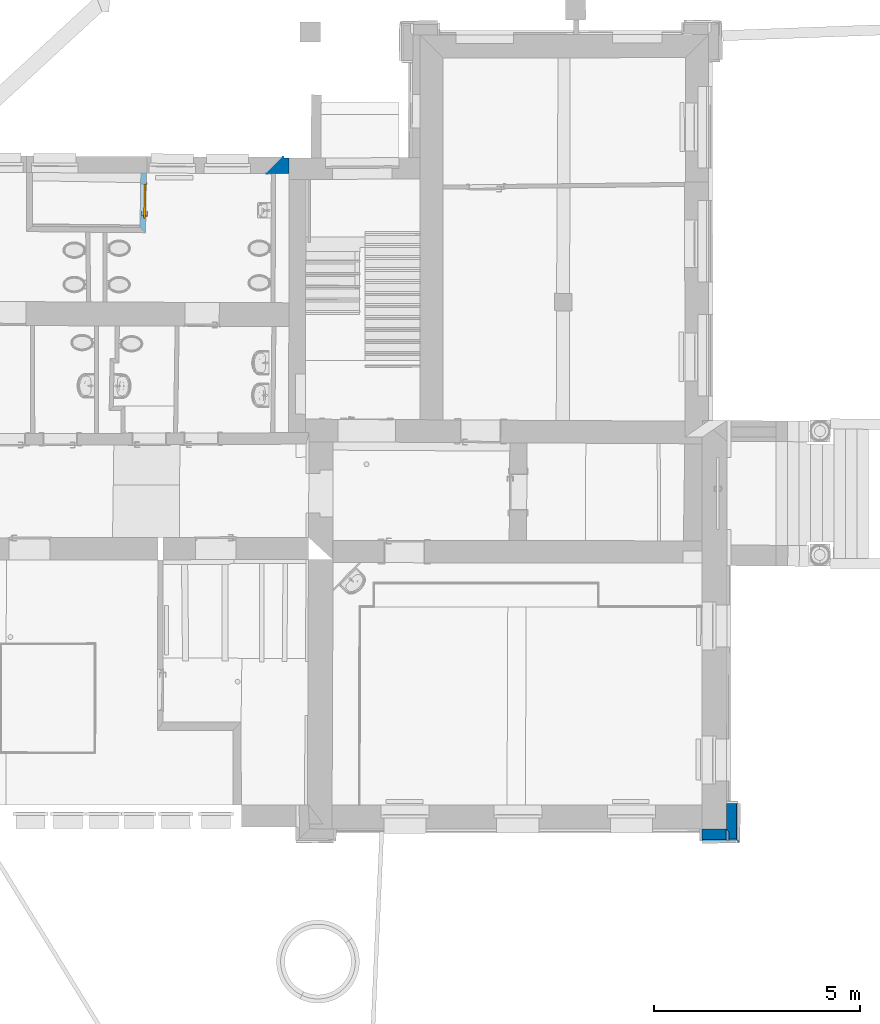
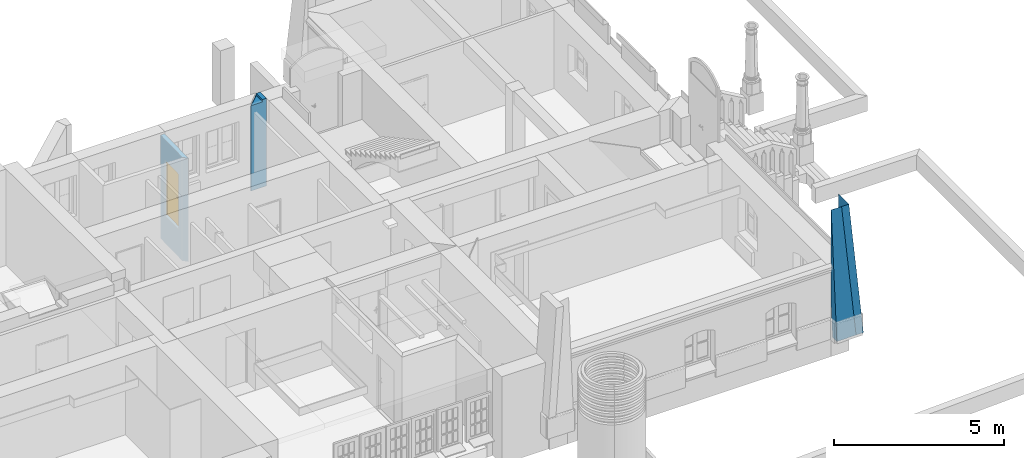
# One storey, part 103 of 196: 4 walls, 1 door, 1 opening, plus 1 element that does not belong to this part.
"""IFC2X3 building model written with IfcOpenShell, lengths in metres."""

import ifcopenshell
import ifcopenshell.guid

model = None  # the IFC model being written
_history = None  # IfcOwnerHistory: only IFC2X3 demands one
_inside = {}  # id of a spatial element -> (the spatial element, [elements in it])
_under = {}  # id of a project, library or spatial element -> (it, [spatial elements below it])
_declared = {}  # id of a project -> (the project, [libraries it declares])
_typed = {}  # id of a type object -> (the type object, [elements of that type])
_made_of = {}  # id of a material, layer set ... -> (it, [elements and type objects made of it])


def new_model(schema):
    """Start an empty IFC model of exactly this schema.

    Asked for "IFC4X3", IfcOpenShell would pick the latest addendum, in which some entities
    have other attributes; the version numbers below select the first issue.
    IFC2X3 requires an IfcOwnerHistory on every rooted entity: one is made here for all.
    """
    global model, _history
    if schema == "IFC4X3":
        model = ifcopenshell.file(schema_version=(4, 3, 0, 0))
    else:
        model = ifcopenshell.file(schema=schema)
    _inside.clear()
    _under.clear()
    _declared.clear()
    _typed.clear()
    _made_of.clear()
    _history = None
    if model.schema == "IFC2X3":
        org = make("IfcOrganization", Name="unknown")
        user = make(
            "IfcPersonAndOrganization",
            ThePerson=make("IfcPerson", FamilyName="unknown"),
            TheOrganization=org,
        )
        app = make(
            "IfcApplication",
            ApplicationDeveloper=org,
            Version="unknown",
            ApplicationFullName="unknown",
            ApplicationIdentifier="unknown",
        )
        _history = make(
            "IfcOwnerHistory",
            OwningUser=user,
            OwningApplication=app,
            ChangeAction="ADDED",
            CreationDate=0,
        )
    return model


def make(cls, **values):
    """One entity of the class cls with the attributes given. An attribute that is None is left unset."""
    return model.create_entity(
        cls, **{name: value for name, value in values.items() if value is not None}
    )


def entity(cls, *values):
    """Any entity or typed value of the class cls, its attributes in the order of the schema. None: left unset."""
    e = model.create_entity(cls)
    for i, value in enumerate(values):
        if value is not None:
            e[i] = value
    return e


def rooted(cls, **values):
    """An entity with a GlobalId (a new one), such as an element, a storey or a relation."""
    return make(cls, GlobalId=ifcopenshell.guid.new(), OwnerHistory=_history, **values)


def si_unit(unit_type, name, prefix=None):
    """IfcSIUnit, for example si_unit("LENGTHUNIT", "METRE", prefix="MILLI")."""
    return make("IfcSIUnit", UnitType=unit_type, Prefix=prefix, Name=name)


def converted_unit(unit_type, name, factor, base, dimensions=None, offset=None):
    """IfcConversionBasedUnit, such as the inch: factor (a typed value) times the base unit."""
    return make(
        "IfcConversionBasedUnit"
        if offset is None
        else "IfcConversionBasedUnitWithOffset",
        ConversionOffset=offset,
        Dimensions=None
        if dimensions is None
        else entity("IfcDimensionalExponents", *dimensions),
        UnitType=unit_type,
        Name=name,
        ConversionFactor=make(
            "IfcMeasureWithUnit", ValueComponent=factor, UnitComponent=base
        ),
    )


def derived_unit(unit_type, elements):
    """IfcDerivedUnit: a product of units, each with its exponent."""
    return make(
        "IfcDerivedUnit",
        Elements=[
            make("IfcDerivedUnitElement", Unit=unit, Exponent=power)
            for unit, power in elements
        ],
        UnitType=unit_type,
    )


def money_unit(currency):
    """IfcMonetaryUnit."""
    return make("IfcMonetaryUnit", Currency=currency)


def assignment(units):
    """IfcUnitAssignment: the units of a project."""
    return None if units is None else make("IfcUnitAssignment", Units=units)


def point(xyz):
    """IfcCartesianPoint."""
    return None if xyz is None else make("IfcCartesianPoint", Coordinates=xyz)


def direction(xyz):
    """IfcDirection."""
    return None if xyz is None else make("IfcDirection", DirectionRatios=xyz)


def frame(location, z_axis=None, x_axis=None):
    """IfcAxis2Placement3D, a coordinate frame: its origin and axes. An axis left out is left unset."""
    return make(
        "IfcAxis2Placement3D",
        Location=point(location),
        Axis=direction(z_axis),
        RefDirection=direction(x_axis),
    )


def frame_2d(location, x_axis=None):
    """IfcAxis2Placement2D, a coordinate frame in the plane: its origin and x axis."""
    return make(
        "IfcAxis2Placement2D", Location=point(location), RefDirection=direction(x_axis)
    )


def origin_with_axes():
    """The frame at (0, 0, 0) with the z axis (0, 0, 1) and the x axis (1, 0, 0) written out."""
    return frame((0.0, 0.0, 0.0), z_axis=(0.0, 0.0, 1.0), x_axis=(1.0, 0.0, 0.0))


def origin_2d_with_axis():
    """The frame at (0, 0) in the plane with the x axis (1, 0) written out."""
    return frame_2d((0.0, 0.0), x_axis=(1.0, 0.0))


def place(relative_to, where):
    """IfcLocalPlacement: puts the frame where relative to a parent placement (None: the world)."""
    return make(
        "IfcLocalPlacement", PlacementRelTo=relative_to, RelativePlacement=where
    )


def context(
    kind, dimensions, precision=None, world=None, true_north=None, identifier=None
):
    """IfcGeometricRepresentationContext, for example the 3D "Model" context."""
    return make(
        "IfcGeometricRepresentationContext",
        ContextIdentifier=identifier,
        ContextType=kind,
        CoordinateSpaceDimension=dimensions,
        Precision=precision,
        WorldCoordinateSystem=world,
        TrueNorth=true_north,
    )


def subcontext(parent, identifier, kind, view, scale=None):
    """IfcGeometricRepresentationSubContext, for example "Body" below "Model"."""
    return make(
        "IfcGeometricRepresentationSubContext",
        ContextIdentifier=identifier,
        ContextType=kind,
        ParentContext=parent,
        TargetScale=scale,
        TargetView=view,
    )


def project(units=None, contexts=None):
    """IfcProject with its units and contexts."""
    return rooted(
        "IfcProject",
        Name="project",
        RepresentationContexts=contexts,
        UnitsInContext=assignment(units),
    )


def spatial(cls, under=None, at=None, **own):
    """A site, building, storey or space (cls), placed at a placement, below another one or the project."""
    s = rooted(cls, ObjectPlacement=at, **own)
    if under is not None:
        _under.setdefault(under.id(), (under, []))[1].append(s)
    return s


def polyline(points):
    """IfcPolyline through the points."""
    return make("IfcPolyline", Points=[point(p) for p in points])


def profile(cls, at=None, kind="AREA", **sizes):
    """A parametric profile (cls). Its sizes go by their IFC names, for example OverallWidth=200.0."""
    return make(cls, ProfileType=kind, Position=at, **sizes)


def rectangle(**sizes):
    """IfcRectangleProfileDef."""
    return profile("IfcRectangleProfileDef", **sizes)


def outline(outer, holes=None, kind="AREA"):
    """IfcArbitraryClosedProfileDef: a profile drawn as a closed curve; with holes, ...WithVoids."""
    if holes is None:
        return make("IfcArbitraryClosedProfileDef", ProfileType=kind, OuterCurve=outer)
    return make(
        "IfcArbitraryProfileDefWithVoids",
        ProfileType=kind,
        OuterCurve=outer,
        InnerCurves=holes,
    )


def extrude(swept, where, along, depth):
    """IfcExtrudedAreaSolid: the profile swept, set in the frame where, extruded along a direction by depth."""
    return make(
        "IfcExtrudedAreaSolid",
        SweptArea=swept,
        Position=where,
        ExtrudedDirection=direction(along),
        Depth=depth,
    )


def boolean(op, a, b):
    """IfcBooleanResult of two solids."""
    return make("IfcBooleanResult", Operator=op, FirstOperand=a, SecondOperand=b)


def faces_of(points, faces, orient=None, outer=None):
    """IfcFace entities. A face is a list of loops; a loop is a list of indices into points, from 0.

    orient and outer hold one flag for each loop. By default every Orientation is true, the
    first loop of a face is its IfcFaceOuterBound and the others are IfcFaceBound.
    """
    made = []
    for i, loops in enumerate(faces):
        bounds = []
        for j, loop in enumerate(loops):
            is_outer = j == 0 if outer is None else outer[i][j]
            bounds.append(
                make(
                    "IfcFaceOuterBound" if is_outer else "IfcFaceBound",
                    Bound=make("IfcPolyLoop", Polygon=[points[k] for k in loop]),
                    Orientation=True if orient is None else orient[i][j],
                )
            )
        made.append(make("IfcFace", Bounds=bounds))
    return made


def faceted_brep(points, faces, orient=None, outer=None, voids=None):
    """IfcFacetedBrep: a solid bounded by flat faces; with voids (closed shells), ...WithVoids."""
    shared = [point(p) for p in points]
    hull = make("IfcClosedShell", CfsFaces=faces_of(shared, faces, orient, outer))
    if voids is None:
        return make("IfcFacetedBrep", Outer=hull)
    return make(
        "IfcFacetedBrepWithVoids",
        Outer=hull,
        Voids=[
            make(cls, CfsFaces=faces_of(shared, fs, o, b)) for cls, fs, o, b in voids
        ],
    )


def shape(context_of_items, identifier, shape_type, items):
    """IfcShapeRepresentation: the items that make up one representation, for example the "Body"."""
    return make(
        "IfcShapeRepresentation",
        ContextOfItems=context_of_items,
        RepresentationIdentifier=identifier,
        RepresentationType=shape_type,
        Items=items,
    )


def material(Name=None, Category=None):
    """IfcMaterial."""
    return make("IfcMaterial", Name=Name, Category=Category)


def layer(
    of_material, thickness, ventilated=None, Name=None, Category=None, Priority=None
):
    """IfcMaterialLayer: one layer of a wall or slab, of a material (None: an air gap)."""
    return make(
        "IfcMaterialLayer",
        Material=of_material,
        LayerThickness=thickness,
        IsVentilated=ventilated,
        Name=Name,
        Category=Category,
        Priority=Priority,
    )


def layer_set(layers, Name=None):
    """IfcMaterialLayerSet."""
    return make("IfcMaterialLayerSet", MaterialLayers=layers, LayerSetName=Name)


def layer_usage(for_layer_set, set_direction, sense, offset, extent=None):
    """IfcMaterialLayerSetUsage: how a layer set lies in its element."""
    return make(
        "IfcMaterialLayerSetUsage",
        ForLayerSet=for_layer_set,
        LayerSetDirection=set_direction,
        DirectionSense=sense,
        OffsetFromReferenceLine=offset,
        ReferenceExtent=extent,
    )


def made_of(thing, what):
    """Note that an element or type object is made of a material, layer set ...; save() writes the relation."""
    if what is not None:
        _made_of.setdefault(what.id(), (what, []))[1].append(thing)
    return thing


def type_object(cls, material=None, **own):
    """A type object (cls), such as IfcWallType, which elements share."""
    return made_of(rooted(cls, **own), material)


def element(
    cls,
    number,
    at=None,
    inside=None,
    cuts=None,
    type_object=None,
    material=None,
    context=None,
    identifier="Body",
    shape_type=None,
    held_by="IfcProductDefinitionShape",
    body=None,
    shapes=None,
    **own,
):
    """One element of the class cls, such as IfcWall. Its Tag is "e" and its number.

    at: its placement. inside: the storey or other place that contains it. cuts: it is an
    opening in that element (IfcRelVoidsElement). A single representation is given by context,
    identifier, shape_type and body (its items); several are given by shapes. held_by: the class
    of the entity that holds the representations. save() writes the other relations.
    """
    e = rooted(cls, Tag="e%d" % number, ObjectPlacement=at, **own)
    if body is not None:
        shapes = [shape(context, identifier, shape_type, body)]
    if shapes is not None:
        e.Representation = make(held_by, Representations=shapes)
    if inside is not None:
        _inside.setdefault(inside.id(), (inside, []))[1].append(e)
    if cuts is not None:
        rooted(
            "IfcRelVoidsElement", RelatingBuildingElement=cuts, RelatedOpeningElement=e
        )
    if type_object is not None:
        _typed.setdefault(type_object.id(), (type_object, []))[1].append(e)
    return made_of(e, material)


def fill(opening, filler):
    """IfcRelFillsElement: the door or window that sits in an opening."""
    return rooted(
        "IfcRelFillsElement",
        RelatingOpeningElement=opening,
        RelatedBuildingElement=filler,
    )


def aggregate(whole, parts):
    """IfcRelAggregates: a whole, such as a stair, and the parts it consists of."""
    return rooted("IfcRelAggregates", RelatingObject=whole, RelatedObjects=parts)


def save(model, path):
    """Write the relations noted so far, then the file.

    IfcRelAggregates (storeys below a building ...), IfcRelContainedInSpatialStructure (elements
    in a storey), IfcRelDefinesByType, IfcRelAssociatesMaterial and IfcRelDeclares: one each for
    every whole, place, type object, material and project.
    """
    for whole, parts in _under.values():
        aggregate(whole, parts)
    for where, things in _inside.values():
        rooted(
            "IfcRelContainedInSpatialStructure",
            RelatedElements=things,
            RelatingStructure=where,
        )
    for kind, things in _typed.values():
        rooted("IfcRelDefinesByType", RelatedObjects=things, RelatingType=kind)
    for what, things in _made_of.values():
        rooted("IfcRelAssociatesMaterial", RelatedObjects=things, RelatingMaterial=what)
    for by, libraries in _declared.values():
        rooted("IfcRelDeclares", RelatingContext=by, RelatedDefinitions=libraries)
    model.write(path)


model = new_model("IFC2X3")

# Units and contexts
model_context = context("Model", 3, precision=1e-05, world=origin_with_axes(), true_north=direction((0.0, 1.0)))
body_context = subcontext(model_context, "Body", "Model", "MODEL_VIEW")
ifc_project = project(units=[si_unit("LENGTHUNIT", "METRE"), si_unit("AREAUNIT", "SQUARE_METRE"), si_unit("VOLUMEUNIT", "CUBIC_METRE"), converted_unit("PLANEANGLEUNIT", "DEGREE", entity("IfcPlaneAngleMeasure", 0.0174532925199), si_unit("PLANEANGLEUNIT", "RADIAN"), dimensions=[0, 0, 0, 0, 0, 0, 0]), money_unit("EUR"), converted_unit("TIMEUNIT", "Year", entity("IfcTimeMeasure", 31556926.0), si_unit("TIMEUNIT", "SECOND"), dimensions=[0, 0, 1, 0, 0, 0, 0]), si_unit("MASSUNIT", "GRAM", prefix="KILO"), si_unit("THERMODYNAMICTEMPERATUREUNIT", "DEGREE_CELSIUS"), si_unit("LUMINOUSINTENSITYUNIT", "LUMEN"), si_unit("ENERGYUNIT", "JOULE", prefix="MEGA"), derived_unit("THERMALCONDUCTANCEUNIT", [(si_unit("POWERUNIT", "WATT"), 1), (si_unit("LENGTHUNIT", "METRE"), -1), (si_unit("THERMODYNAMICTEMPERATUREUNIT", "KELVIN"), -1)]), derived_unit("SPECIFICHEATCAPACITYUNIT", [(si_unit("ENERGYUNIT", "JOULE"), 1), (si_unit("MASSUNIT", "GRAM", prefix="KILO"), -1), (si_unit("THERMODYNAMICTEMPERATUREUNIT", "KELVIN"), -1)]), derived_unit("MASSDENSITYUNIT", [(si_unit("MASSUNIT", "GRAM", prefix="KILO"), 1), (si_unit("VOLUMEUNIT", "CUBIC_METRE"), -1)])], contexts=[model_context])

# Site, building, storey
site_placement = place(None, origin_with_axes())
site = spatial("IfcSite", under=ifc_project, at=site_placement, Name="Gelände", CompositionType="ELEMENT")
building_placement = place(site_placement, origin_with_axes())
building = spatial("IfcBuilding", under=site, at=building_placement, Name="Gebäude", CompositionType="ELEMENT")
storey_placement = place(building_placement, frame((0.0, 0.0, -3.0), z_axis=(0.0, 0.0, 1.0), x_axis=(1.0, 0.0, 0.0)))
storey = spatial("IfcBuildingStorey", under=building, at=storey_placement, Name="KELLERGESCHOSS", CompositionType="ELEMENT", Elevation=-3.0)

# Walls
ifc_material_1 = material(Name="05_ALLGEMEIN - TRAGENDE BAUTEILE")
wall_type_1 = type_object("IfcWallType", Name="05_ALLGEMEIN - TRAGENDE BAUTEILE 400", PredefinedType="ELEMENTEDWALL")
wall_1_placement = place(storey_placement, frame((21.3567077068, 26.1686068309, -0.36), z_axis=(0.0, 0.0, 1.0), x_axis=(0.0, 1.0, 0.0)))
element("IfcWall", 1, at=wall_1_placement, inside=storey, type_object=wall_type_1, material=ifc_material_1, Name="Wand-032", ObjectType="ELEMENTEDWALL", context=body_context, shape_type="CSG", body=[
    boolean("DIFFERENCE", extrude(outline(polyline([(-0.378179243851, 0.0), (0.0278423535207, 0.0), (0.0278423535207, 0.4), (-0.378179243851, 0.4), (-0.378179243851, 0.0)])), origin_with_axes(), (0.0, 0.0, 1.0), 3.065), faceted_brep([(-0.372160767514, 0.400000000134, 3.065), (0.0262708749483, 0.0, 3.065), (0.0278423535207, 0.0, 3.065), (0.0278423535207, 0.4, 3.065), (0.0262708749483, 0.0, 0.0), (-0.372160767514, 0.400000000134, 0.0), (0.0278423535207, 0.0, 0.0), (0.0278423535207, 0.4, 0.0), (-0.378179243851, 0.4, 0.0), (-0.378179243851, 0.4, 3.065), (-0.372185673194, 0.393660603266, 3.065), (-0.372185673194, 0.393660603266, 0.0), (0.0, 0.0, 0.0), (-0.378179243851, 0.0, 0.0), (-0.378179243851, 0.0, 3.065), (0.0, 0.0, 3.065)], [[[0, 1, 2, 3]], [[4, 1, 0, 5]], [[1, 4, 6, 2]], [[2, 6, 7, 3]], [[3, 7, 5, 8, 9, 0]], [[0, 10, 11, 5]], [[4, 5, 7, 6]], [[11, 12, 13, 8, 5]], [[9, 8, 13, 14]], [[10, 0, 9, 14, 15]], [[10, 15, 12, 11]], [[12, 15, 14, 13]]])),
])
wall_type_2 = type_object("IfcWallType", Name="05_ALLGEMEIN - TRAGENDE BAUTEILE 250", PredefinedType="ELEMENTEDWALL")
wall_2_placement = place(storey_placement, frame((32.4306677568, 10.5057770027, 0.381444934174), z_axis=(0.0, 0.0, 1.0), x_axis=(-0.00991415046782, -0.999950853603, 0.0)))
element("IfcWall", 2, at=wall_2_placement, inside=storey, type_object=wall_type_2, material=ifc_material_1, Name="Wand-041", ObjectType="ELEMENTEDWALL", context=body_context, shape_type="CSG", body=[
    boolean("DIFFERENCE", extrude(outline(polyline([(-0.250585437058, 0.0), (0.0, 0.0), (-0.310221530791, 4.53036021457), (-0.56080696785, 4.53036021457), (-0.250585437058, 0.0)])), frame((0.0, 0.0, 0.0), z_axis=(1.0, 0.0, 0.0), x_axis=(0.0, 1.0, 0.0)), (0.0, 0.0, 1.0), 0.944797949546), faceted_brep([(0.944777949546, -0.250585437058, 0.0), (0.939243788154, 0.0, 0.0), (0.944797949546, 0.0, 0.0), (0.944797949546, -0.250585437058, 0.0), (0.61710432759, -0.310221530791, 4.53036021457), (0.622638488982, -0.56080696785, 4.53036021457), (0.617330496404, -0.320462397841, 4.53036021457), (0.61723794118, -0.311373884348, 4.52887074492), (0.617129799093, -0.311374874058, 4.53036021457), (0.944797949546, -0.310221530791, 4.53036021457), (0.944797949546, -0.56080696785, 4.53036021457), (0.0, -0.317022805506, 4.53036021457), (0.0, -0.56080696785, 4.53036021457), (0.619778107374, -0.56080696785, 4.53036021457), (0.61723794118, -0.311373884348, 0.887731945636), (0.0, -0.317022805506, 0.970226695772)], [[[0, 1, 2, 3]], [[4, 1, 0, 5, 6, 7, 8]], [[1, 4, 9, 2]], [[10, 3, 2, 9]], [[5, 0, 3, 10]], [[6, 5, 10, 9, 4, 8, 11, 12, 13]], [[13, 14, 7, 6]], [[15, 11, 8, 7, 14]], [[11, 15, 12]], [[14, 13, 12, 15]]])),
])
wall_3_placement = place(storey_placement, frame((31.5125559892, 9.55552143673, 0.381444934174), z_axis=(0.0, 0.0, 1.0), x_axis=(0.999925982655, 0.0121667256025, 0.0)))
element("IfcWall", 3, at=wall_3_placement, inside=storey, type_object=wall_type_2, material=ifc_material_1, Name="Wand-042", ObjectType="ELEMENTEDWALL", context=body_context, shape_type="CSG", body=[
    boolean("DIFFERENCE", extrude(outline(polyline([(0.0, 0.0), (0.250658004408, 0.0), (0.579568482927, 4.53036021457), (0.328910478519, 4.53036021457), (0.0, 0.0)])), frame((0.0, 0.0, 0.0), z_axis=(1.0, 0.0, 0.0), x_axis=(0.0, 1.0, 0.0)), (0.0, 0.0, 1.0), 0.908867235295), faceted_brep([(0.658220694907, 0.0, 0.0), (0.663756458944, 0.250658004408, 0.0), (0.908867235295, 0.250658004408, 0.0), (0.908867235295, 0.0, 0.0), (0.591616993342, 0.328957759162, 1.07848827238), (0.355187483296, 0.328910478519, 4.53036021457), (0.355250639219, 0.331770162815, 4.53036021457), (0.00472114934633, 0.335940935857, 1.17467342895), (0.0, 0.335997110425, 1.17544716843), (0.0, 0.579568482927, 4.53036021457), (0.908867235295, 0.579568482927, 4.53036021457), (0.908867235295, 0.328910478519, 4.53036021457), (0.0, 0.335997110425, 4.53036021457), (0.0247197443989, 0.335702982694, 4.53036021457), (0.0247197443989, 0.335702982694, 2.40855506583), (0.00472114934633, 0.335940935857, 2.40855506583)], [[[0, 1, 2, 3]], [[4, 1, 0, 5, 6]], [[7, 8, 9, 10, 2, 1, 4]], [[11, 3, 2, 10]], [[5, 0, 3, 11]], [[6, 5, 11, 10, 9, 12, 13]], [[7, 4, 6, 13, 14, 15]], [[13, 12, 8, 7, 15, 14]], [[8, 12, 9]]])),
])
wall_type_3 = type_object("IfcWallType", Name="05_ALLGEMEIN - TRAGENDE BAUTEILE 376", PredefinedType="ELEMENTEDWALL")
wall_4_placement = place(storey_placement, frame((21.4898818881, 26.1693305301, -0.36), z_axis=(0.0, 0.0, 1.0), x_axis=(-0.999985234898, -0.00543414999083, 0.0)))
element("IfcWall", 4, at=wall_4_placement, inside=storey, type_object=wall_type_3, material=ifc_material_1, Name="Wand-031", ObjectType="ELEMENTEDWALL", context=body_context, shape_type="CSG", body=[
    boolean("DIFFERENCE", extrude(outline(polyline([(0.0, 0.0), (0.53522532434, 0.0), (0.53522532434, 0.376), (0.0, 0.376), (0.0, 0.0)])), origin_with_axes(), (0.0, 0.0, 1.0), 3.15), faceted_brep([(0.0, 0.374992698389, 0.0), (0.0, 0.374992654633, 3.15), (0.0, 0.376, 3.15), (0.0, 0.376, 0.0), (0.133176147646, 0.373745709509, 3.15), (0.528853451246, 0.37004096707, 0.0), (0.528853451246, 0.37004096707, 3.065), (0.133176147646, 0.373745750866, 3.065), (0.133176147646, 0.0, 3.15), (0.53522532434, 0.0, 3.15), (0.53522532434, 0.376, 3.15), (0.53522532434, 0.376, 0.0), (0.53522532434, 0.0, 0.0), (0.133176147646, 0.0, 0.0), (0.133176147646, 0.0, 3.065)], [[[0, 1, 2, 3]], [[4, 1, 0, 5, 6, 7]], [[4, 8, 9, 10, 2, 1]], [[10, 11, 3, 2]], [[5, 0, 3, 11, 12, 13]], [[13, 14, 6, 5]], [[6, 14, 7]], [[8, 4, 7, 14]], [[14, 13, 12, 9, 8]], [[9, 12, 11, 10]]])),
])

# Wall, opening, door
ifc_material_2 = material(Name="59_MW Kalksandstein-600")
ifc_layer = layer(ifc_material_2, 0.138294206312, ventilated="UNKNOWN")
ifc_layer_set = layer_set([ifc_layer], Name="59_MW Kalksandstein-600 0.138294")
ifc_layer_usage = layer_usage(ifc_layer_set, "AXIS2", "NEGATIVE", 0.138294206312)
wall_type_4 = type_object("IfcWallType", Name="59_MW Kalksandstein-600 138", PredefinedType="ELEMENTEDWALL")
wall_5_placement = place(storey_placement, frame((18.0123133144, 24.3596223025, -1.0), z_axis=(0.0, 0.0, 1.0), x_axis=(0.0162533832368, 0.999867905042, 0.0)))
wall_5 = element("IfcWallStandardCase", 5, at=wall_5_placement, inside=storey, type_object=wall_type_4, material=ifc_layer_usage, Name="Wand-040", ObjectType="ELEMENTEDWALL", context=body_context, shape_type="SweptSolid", body=[
    extrude(outline(polyline([(0.0, 0.0), (1.44849027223, 0.0), (1.44678565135, 0.138294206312), (0.133548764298, 0.138294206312), (0.0, 0.0)])), origin_with_axes(), (0.0, 0.0, 1.0), 3.72),
])
opening_placement = place(wall_5_placement, frame((0.764128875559, 0.0, 0.9899005), z_axis=(0.0, 0.0, 1.0), x_axis=(1.0, 0.0, 0.0)))
opening = element("IfcOpeningElement", 6, at=opening_placement, cuts=wall_5, Name="Tür-022", context=body_context, shape_type="SweptSolid", body=[
    extrude(rectangle(XDim=0.824257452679, YDim=1.992285, at=origin_2d_with_axis()), frame((0.0, -0.138294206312, 0.9961425), z_axis=(0.0, -1.0, 0.0), x_axis=(1.0, 0.0, 0.0)), (0.0, 0.0, -1.0), 0.414882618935),
])
door_style = type_object("IfcDoorStyle", Name="Blockrahmentür 1-Fl 25", ConstructionType="NOTDEFINED", OperationType="SINGLE_SWING_LEFT", ParameterTakesPrecedence=False, Sizeable=False)
door_placement = place(opening_placement, frame((0.40162872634, 0.0, 0.0), z_axis=(0.0, 0.0, 1.0), x_axis=(-1.0, 0.0, 0.0)))
door = element("IfcDoor", 7, at=door_placement, inside=storey, type_object=door_style, Name="Tür-022", ObjectType="NOTDEFINED", OverallHeight=1.99228, OverallWidth=0.824257, context=body_context, shape_type="Brep", body=[
    faceted_brep([(-0.0105, -0.084, 0.0), (-0.0105, -0.084, 1.992285), (-0.0105, -0.054, 1.992285), (-0.0105, -0.054, 0.0), (0.0, -0.084, 0.0), (0.0, -0.084, 1.981785), (0.28652872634, -0.084, 1.981785), (0.40152872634, -0.084, 1.981785), (0.803257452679, -0.084, 1.981785), (0.803257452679, -0.084, 0.0), (0.813757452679, -0.084, 0.0), (0.813757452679, -0.084, 1.992285), (0.813757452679, -0.054, 1.992285), (0.813757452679, -0.054, 0.0), (0.803257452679, -0.054, 0.0), (0.803257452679, -0.054, 1.981785), (0.40152872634, -0.054, 1.981785), (0.28652872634, -0.054, 1.981785), (0.0, -0.054, 1.981785), (0.0, -0.054, 0.0)], [[[0, 1, 2, 3]], [[0, 4, 5, 6, 7, 8, 9, 10, 11, 1]], [[1, 11, 12, 2]], [[3, 2, 12, 13, 14, 15, 16, 17, 18, 19]], [[4, 0, 3, 19]], [[5, 4, 19, 18]], [[6, 5, 18, 17]], [[7, 6, 17, 16]], [[8, 7, 16, 15]], [[9, 8, 15, 14]], [[10, 9, 14, 13]], [[11, 10, 13, 12]]]),
    faceted_brep([(-0.0105, -0.054, 0.0), (-0.015, -0.054, 0.0), (-0.015, 0.011, 0.0), (-0.0105, 0.011, 0.0), (-0.0105, -0.054, 1.992285), (0.813757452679, -0.054, 1.992285), (0.813757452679, -0.054, 0.0), (0.818257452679, -0.054, 0.0), (0.818257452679, -0.054, 1.996785), (0.38652872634, -0.054, 1.996785), (0.30152872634, -0.054, 1.996785), (-0.015, -0.054, 1.996785), (-0.015, 0.011, 1.996785), (0.30152872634, 0.011, 1.996785), (0.38652872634, 0.011, 1.996785), (0.818257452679, 0.011, 1.996785), (0.818257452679, 0.011, 0.0), (0.813757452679, 0.011, 0.0), (0.813757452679, 0.011, 1.992285), (-0.0105, 0.011, 1.992285)], [[[0, 1, 2, 3]], [[0, 4, 5, 6, 7, 8, 9, 10, 11, 1]], [[1, 11, 12, 2]], [[3, 2, 12, 13, 14, 15, 16, 17, 18, 19]], [[4, 0, 3, 19]], [[5, 4, 19, 18]], [[6, 5, 18, 17]], [[7, 6, 17, 16]], [[8, 7, 16, 15]], [[9, 8, 15, 14]], [[10, 9, 14, 13]], [[11, 10, 13, 12]]]),
    faceted_brep([(-0.0505, 0.0, 0.0), (-0.0505, 0.0, 2.032285), (-0.0505, 0.011, 2.032285), (-0.0505, 0.011, 0.0), (-0.0105, 0.0, 0.0), (-0.0105, 0.0, 1.992285), (0.813757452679, 0.0, 1.992285), (0.813757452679, 0.0, 0.0), (0.853757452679, 0.0, 0.0), (0.853757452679, 0.0, 2.032285), (0.853757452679, 0.011, 2.032285), (0.853757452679, 0.011, 0.0), (0.813757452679, 0.011, 0.0), (0.813757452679, 0.011, 1.992285), (-0.0105, 0.011, 1.992285), (-0.0105, 0.011, 0.0)], [[[0, 1, 2, 3]], [[0, 4, 5, 6, 7, 8, 9, 1]], [[1, 9, 10, 2]], [[3, 2, 10, 11, 12, 13, 14, 15]], [[4, 0, 3, 15]], [[5, 4, 15, 14]], [[6, 5, 14, 13]], [[7, 6, 13, 12]], [[8, 7, 12, 11]], [[9, 8, 11, 10]]]),
    faceted_brep([(-0.015, -0.014, 0.0), (-0.015, -0.014, 1.996785), (0.818257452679, -0.014, 1.996785), (0.818257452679, -0.014, 0.0), (-0.015, -0.054, 0.0), (-0.015, -0.054, 1.996785), (0.818257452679, -0.054, 1.996785), (0.818257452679, -0.054, 0.0)], [[[0, 1, 2, 3]], [[0, 4, 5, 1]], [[1, 5, 6, 2]], [[2, 6, 7, 3]], [[3, 7, 4, 0]], [[7, 6, 5, 4]]]),
    faceted_brep([(0.762959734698, -0.094, 1.05647213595), (0.762959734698, -0.074, 1.05647213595), (0.758257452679, -0.074, 1.058), (0.758257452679, -0.094, 1.058), (0.76586590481, -0.094, 1.05247213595), (0.76586590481, -0.074, 1.05247213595), (0.764135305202, -0.072, 1.05809016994), (0.758257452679, -0.072, 1.06), (0.753555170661, -0.074, 1.05647213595), (0.753555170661, -0.094, 1.05647213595), (0.750649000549, -0.094, 1.05247213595), (0.750649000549, -0.094, 1.04752786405), (0.753555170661, -0.094, 1.04352786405), (0.758257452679, -0.094, 1.042), (0.762959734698, -0.094, 1.04352786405), (0.76586590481, -0.094, 1.04752786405), (0.76586590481, -0.074, 1.04752786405), (0.767768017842, -0.072, 1.05309016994), (0.764135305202, -0.064, 1.05809016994), (0.758257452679, -0.064, 1.06), (0.752379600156, -0.072, 1.05809016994), (0.750649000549, -0.074, 1.05247213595), (0.750649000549, -0.074, 1.04752786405), (0.753555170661, -0.074, 1.04352786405), (0.758257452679, -0.074, 1.042), (0.762959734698, -0.074, 1.04352786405), (0.767768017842, -0.072, 1.04690983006), (0.767768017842, -0.064, 1.05309016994), (0.767768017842, -0.064, 1.04690983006), (0.764135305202, -0.064, 1.04190983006), (0.758257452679, -0.064, 1.04), (0.752379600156, -0.064, 1.04190983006), (0.748746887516, -0.064, 1.04690983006), (0.748746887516, -0.064, 1.05309016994), (0.752379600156, -0.064, 1.05809016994), (0.748746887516, -0.072, 1.05309016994), (0.748746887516, -0.072, 1.04690983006), (0.752379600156, -0.072, 1.04190983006), (0.758257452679, -0.072, 1.04), (0.764135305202, -0.072, 1.04190983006)], [[[0, 1, 2, 3]], [[4, 5, 1, 0]], [[1, 6, 7, 2]], [[3, 2, 8, 9]], [[3, 9, 10, 11, 12, 13, 14, 15, 4, 0]], [[15, 16, 5, 4]], [[5, 17, 6, 1]], [[6, 18, 19, 7]], [[2, 7, 20, 8]], [[9, 8, 21, 10]], [[10, 21, 22, 11]], [[11, 22, 23, 12]], [[12, 23, 24, 13]], [[13, 24, 25, 14]], [[14, 25, 16, 15]], [[16, 26, 17, 5]], [[17, 27, 18, 6]], [[19, 18, 27, 28, 29, 30, 31, 32, 33, 34]], [[7, 19, 34, 20]], [[8, 20, 35, 21]], [[21, 35, 36, 22]], [[22, 36, 37, 23]], [[23, 37, 38, 24]], [[24, 38, 39, 25]], [[25, 39, 26, 16]], [[26, 28, 27, 17]], [[39, 29, 28, 26]], [[38, 30, 29, 39]], [[37, 31, 30, 38]], [[36, 32, 31, 37]], [[35, 33, 32, 36]], [[20, 34, 33, 35]]]),
    faceted_brep([(0.746069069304, -0.064, 1.11759695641), (0.741457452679, -0.064, 1.11), (0.735757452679, -0.064, 1.11), (0.735757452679, -0.064, 0.89), (0.741457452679, -0.064, 0.89), (0.746069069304, -0.064, 0.882403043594), (0.753813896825, -0.064, 0.878044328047), (0.762701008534, -0.064, 0.878044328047), (0.770445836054, -0.064, 0.882403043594), (0.775057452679, -0.064, 0.89), (0.780757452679, -0.064, 0.89), (0.780757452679, -0.064, 1.11), (0.775057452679, -0.064, 1.11), (0.770445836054, -0.064, 1.11759695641), (0.762701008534, -0.064, 1.12195567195), (0.753813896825, -0.064, 1.12195567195), (0.758257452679, -0.064, 0.967425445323), (0.763632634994, -0.064, 0.965143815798), (0.765725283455, -0.064, 0.959692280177), (0.763257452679, -0.064, 0.9544), (0.763257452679, -0.064, 0.9375), (0.761792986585, -0.064, 0.933964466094), (0.758257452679, -0.064, 0.9325), (0.754721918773, -0.064, 0.933964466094), (0.753257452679, -0.064, 0.9375), (0.753257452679, -0.064, 0.9544), (0.750789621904, -0.064, 0.959692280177), (0.752882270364, -0.064, 0.965143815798), (0.746069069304, -0.054, 1.11759695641), (0.741457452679, -0.054, 1.11), (0.735757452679, -0.054, 1.11), (0.735757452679, -0.054, 0.89), (0.741457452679, -0.054, 0.89), (0.746069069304, -0.054, 0.882403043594), (0.753813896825, -0.054, 0.878044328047), (0.762701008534, -0.054, 0.878044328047), (0.770445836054, -0.054, 0.882403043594), (0.775057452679, -0.054, 0.89), (0.780757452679, -0.054, 0.89), (0.780757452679, -0.054, 1.11), (0.775057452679, -0.054, 1.11), (0.770445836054, -0.054, 1.11759695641), (0.762701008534, -0.054, 1.12195567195), (0.753813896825, -0.054, 1.12195567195), (0.758257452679, -0.054, 0.967425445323), (0.763632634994, -0.054, 0.965143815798), (0.765725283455, -0.054, 0.959692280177), (0.763257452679, -0.054, 0.9544), (0.763257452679, -0.054, 0.9375), (0.761792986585, -0.054, 0.933964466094), (0.758257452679, -0.054, 0.9325), (0.754721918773, -0.054, 0.933964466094), (0.753257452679, -0.054, 0.9375), (0.753257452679, -0.054, 0.9544), (0.750789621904, -0.054, 0.959692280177), (0.752882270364, -0.054, 0.965143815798)], [[[0, 1, 2, 3, 4, 5, 6, 7, 8, 9, 10, 11, 12, 13, 14, 15], [16, 17, 18, 19, 20, 21, 22, 23, 24, 25, 26, 27]], [[0, 28, 29, 1]], [[1, 29, 30, 2]], [[2, 30, 31, 3]], [[3, 31, 32, 4]], [[4, 32, 33, 5]], [[5, 33, 34, 6]], [[6, 34, 35, 7]], [[7, 35, 36, 8]], [[8, 36, 37, 9]], [[9, 37, 38, 10]], [[10, 38, 39, 11]], [[11, 39, 40, 12]], [[12, 40, 41, 13]], [[13, 41, 42, 14]], [[14, 42, 43, 15]], [[15, 43, 28, 0]], [[16, 44, 45, 17]], [[17, 45, 46, 18]], [[18, 46, 47, 19]], [[47, 48, 20, 19]], [[21, 20, 48, 49]], [[22, 21, 49, 50]], [[23, 22, 50, 51]], [[24, 23, 51, 52]], [[25, 24, 52, 53]], [[25, 53, 54, 26]], [[26, 54, 55, 27]], [[27, 55, 44, 16]], [[32, 31, 30, 29, 28, 43, 42, 41, 40, 39, 38, 37, 36, 35, 34, 33], [46, 45, 44, 55, 54, 53, 52, 51, 50, 49, 48, 47]]]),
    faceted_brep([(0.644004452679, -0.094, 1.057158), (0.644002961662, -0.094, 1.05719388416), (0.644002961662, -0.109, 1.05719388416), (0.644004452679, -0.109, 1.057158), (0.671032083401, -0.094, 1.06432652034), (0.698860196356, -0.094, 1.06706086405), (0.726766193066, -0.094, 1.06529002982), (0.754025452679, -0.094, 1.05906), (0.760428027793, -0.094, 1.05976125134), (0.765930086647, -0.094, 1.05641280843), (0.768248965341, -0.094, 1.05040385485), (0.766422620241, -0.094, 1.04422735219), (0.761208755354, -0.094, 1.04044577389), (0.754770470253, -0.094, 1.04062800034), (0.749778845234, -0.094, 1.04469843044), (0.749799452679, -0.094, 1.044666), (0.724510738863, -0.094, 1.05019878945), (0.698668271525, -0.094, 1.05171460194), (0.672906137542, -0.094, 1.04917624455), (0.647856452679, -0.094, 1.042646), (0.642313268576, -0.094, 1.04356849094), (0.638951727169, -0.094, 1.04807159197), (0.639643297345, -0.094, 1.05364829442), (0.639643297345, -0.109, 1.05364829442), (0.638951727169, -0.109, 1.04807159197), (0.642313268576, -0.109, 1.04356849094), (0.647856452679, -0.109, 1.042646), (0.672906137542, -0.109, 1.04917624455), (0.698668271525, -0.109, 1.05171460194), (0.724510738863, -0.109, 1.05019878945), (0.749799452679, -0.109, 1.044666), (0.749778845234, -0.109, 1.04469843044), (0.754770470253, -0.109, 1.04062800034), (0.761208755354, -0.109, 1.04044577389), (0.766422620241, -0.109, 1.04422735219), (0.768248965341, -0.109, 1.05040385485), (0.765930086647, -0.109, 1.05641280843), (0.760428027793, -0.109, 1.05976125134), (0.754025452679, -0.109, 1.05906), (0.726766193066, -0.109, 1.06529002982), (0.698860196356, -0.109, 1.06706086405), (0.671032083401, -0.109, 1.06432652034)], [[[0, 1, 2, 3]], [[0, 4, 5, 6, 7, 8, 9, 10, 11, 12, 13, 14, 15, 16, 17, 18, 19, 20, 21, 22, 1]], [[1, 22, 23, 2]], [[3, 2, 23, 24, 25, 26, 27, 28, 29, 30, 31, 32, 33, 34, 35, 36, 37, 38, 39, 40, 41]], [[4, 0, 3, 41]], [[5, 4, 41, 40]], [[6, 5, 40, 39]], [[7, 6, 39, 38]], [[8, 7, 38, 37]], [[9, 8, 37, 36]], [[10, 9, 36, 35]], [[11, 10, 35, 34]], [[12, 11, 34, 33]], [[13, 12, 33, 32]], [[14, 13, 32, 31]], [[15, 14, 31, 30]], [[16, 15, 30, 29]], [[17, 16, 29, 28]], [[18, 17, 28, 27]], [[19, 18, 27, 26]], [[20, 19, 26, 25]], [[21, 20, 25, 24]], [[22, 21, 24, 23]]]),
    faceted_brep([(0.762959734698, 0.026, 1.05647213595), (0.758257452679, 0.026, 1.058), (0.758257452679, 0.006, 1.058), (0.762959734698, 0.006, 1.05647213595), (0.76586590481, 0.026, 1.05247213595), (0.76586590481, 0.026, 1.04752786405), (0.762959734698, 0.026, 1.04352786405), (0.758257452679, 0.026, 1.042), (0.753555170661, 0.026, 1.04352786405), (0.750649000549, 0.026, 1.04752786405), (0.750649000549, 0.026, 1.05247213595), (0.753555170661, 0.026, 1.05647213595), (0.753555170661, 0.006, 1.05647213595), (0.758257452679, 0.004, 1.06), (0.764135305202, 0.004, 1.05809016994), (0.76586590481, 0.006, 1.05247213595), (0.76586590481, 0.006, 1.04752786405), (0.762959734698, 0.006, 1.04352786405), (0.758257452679, 0.006, 1.042), (0.753555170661, 0.006, 1.04352786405), (0.750649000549, 0.006, 1.04752786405), (0.750649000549, 0.006, 1.05247213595), (0.752379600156, 0.004, 1.05809016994), (0.758257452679, -0.004, 1.06), (0.764135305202, -0.004, 1.05809016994), (0.767768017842, 0.00399999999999, 1.05309016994), (0.767768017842, 0.00399999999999, 1.04690983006), (0.764135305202, 0.004, 1.04190983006), (0.758257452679, 0.004, 1.04), (0.752379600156, 0.004, 1.04190983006), (0.748746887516, 0.004, 1.04690983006), (0.748746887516, 0.004, 1.05309016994), (0.752379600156, -0.004, 1.05809016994), (0.748746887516, -0.004, 1.05309016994), (0.748746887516, -0.004, 1.04690983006), (0.752379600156, -0.004, 1.04190983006), (0.758257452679, -0.004, 1.04), (0.764135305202, -0.004, 1.04190983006), (0.767768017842, -0.004, 1.04690983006), (0.767768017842, -0.004, 1.05309016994)], [[[0, 1, 2, 3]], [[1, 0, 4, 5, 6, 7, 8, 9, 10, 11]], [[1, 11, 12, 2]], [[3, 2, 13, 14]], [[4, 0, 3, 15]], [[5, 4, 15, 16]], [[6, 5, 16, 17]], [[7, 6, 17, 18]], [[8, 7, 18, 19]], [[9, 8, 19, 20]], [[10, 9, 20, 21]], [[11, 10, 21, 12]], [[2, 12, 22, 13]], [[14, 13, 23, 24]], [[15, 3, 14, 25]], [[16, 15, 25, 26]], [[17, 16, 26, 27]], [[18, 17, 27, 28]], [[19, 18, 28, 29]], [[20, 19, 29, 30]], [[21, 20, 30, 31]], [[12, 21, 31, 22]], [[13, 22, 32, 23]], [[23, 32, 33, 34, 35, 36, 37, 38, 39, 24]], [[25, 14, 24, 39]], [[26, 25, 39, 38]], [[27, 26, 38, 37]], [[28, 27, 37, 36]], [[29, 28, 36, 35]], [[30, 29, 35, 34]], [[31, 30, 34, 33]], [[22, 31, 33, 32]]]),
    faceted_brep([(0.746069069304, -0.014, 1.11759695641), (0.741457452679, -0.014, 1.11), (0.735757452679, -0.014, 1.11), (0.735757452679, -0.014, 0.89), (0.741457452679, -0.014, 0.89), (0.746069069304, -0.014, 0.882403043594), (0.753813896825, -0.014, 0.878044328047), (0.762701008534, -0.014, 0.878044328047), (0.770445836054, -0.014, 0.882403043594), (0.775057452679, -0.014, 0.89), (0.780757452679, -0.014, 0.89), (0.780757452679, -0.014, 1.11), (0.775057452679, -0.014, 1.11), (0.770445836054, -0.014, 1.11759695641), (0.762701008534, -0.014, 1.12195567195), (0.753813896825, -0.014, 1.12195567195), (0.758257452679, -0.014, 0.967425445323), (0.763632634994, -0.014, 0.965143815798), (0.765725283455, -0.014, 0.959692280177), (0.763257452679, -0.014, 0.9544), (0.763257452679, -0.014, 0.9375), (0.761792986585, -0.014, 0.933964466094), (0.758257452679, -0.014, 0.9325), (0.754721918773, -0.014, 0.933964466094), (0.753257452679, -0.014, 0.9375), (0.753257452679, -0.014, 0.9544), (0.750789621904, -0.014, 0.959692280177), (0.752882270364, -0.014, 0.965143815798), (0.746069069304, -0.004, 1.11759695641), (0.741457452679, -0.004, 1.11), (0.735757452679, -0.004, 1.11), (0.735757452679, -0.004, 0.89), (0.741457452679, -0.004, 0.89), (0.746069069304, -0.004, 0.882403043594), (0.753813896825, -0.004, 0.878044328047), (0.762701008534, -0.004, 0.878044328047), (0.770445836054, -0.004, 0.882403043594), (0.775057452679, -0.004, 0.89), (0.780757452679, -0.004, 0.89), (0.780757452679, -0.004, 1.11), (0.775057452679, -0.004, 1.11), (0.770445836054, -0.004, 1.11759695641), (0.762701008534, -0.004, 1.12195567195), (0.753813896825, -0.004, 1.12195567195), (0.758257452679, -0.004, 0.967425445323), (0.763632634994, -0.004, 0.965143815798), (0.765725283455, -0.004, 0.959692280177), (0.763257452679, -0.004, 0.9544), (0.763257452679, -0.004, 0.9375), (0.761792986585, -0.004, 0.933964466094), (0.758257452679, -0.004, 0.9325), (0.754721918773, -0.004, 0.933964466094), (0.753257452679, -0.004, 0.9375), (0.753257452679, -0.004, 0.9544), (0.750789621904, -0.004, 0.959692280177), (0.752882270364, -0.004, 0.965143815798)], [[[0, 1, 2, 3, 4, 5, 6, 7, 8, 9, 10, 11, 12, 13, 14, 15], [16, 17, 18, 19, 20, 21, 22, 23, 24, 25, 26, 27]], [[28, 29, 1, 0]], [[29, 30, 2, 1]], [[30, 31, 3, 2]], [[31, 32, 4, 3]], [[32, 33, 5, 4]], [[33, 34, 6, 5]], [[34, 35, 7, 6]], [[35, 36, 8, 7]], [[36, 37, 9, 8]], [[37, 38, 10, 9]], [[38, 39, 11, 10]], [[39, 40, 12, 11]], [[40, 41, 13, 12]], [[41, 42, 14, 13]], [[42, 43, 15, 14]], [[43, 28, 0, 15]], [[16, 44, 45, 17]], [[17, 45, 46, 18]], [[18, 46, 47, 19]], [[47, 48, 20, 19]], [[21, 20, 48, 49]], [[22, 21, 49, 50]], [[23, 22, 50, 51]], [[24, 23, 51, 52]], [[25, 24, 52, 53]], [[25, 53, 54, 26]], [[26, 54, 55, 27]], [[27, 55, 44, 16]], [[32, 31, 30, 29, 28, 43, 42, 41, 40, 39, 38, 37, 36, 35, 34, 33], [46, 45, 44, 55, 54, 53, 52, 51, 50, 49, 48, 47]]]),
    faceted_brep([(0.644004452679, 0.026, 1.057158), (0.644004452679, 0.041, 1.057158), (0.644002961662, 0.041, 1.05719388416), (0.644002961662, 0.026, 1.05719388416), (0.671032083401, 0.026, 1.06432652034), (0.671032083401, 0.041, 1.06432652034), (0.698860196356, 0.041, 1.06706086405), (0.726766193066, 0.041, 1.06529002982), (0.754025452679, 0.041, 1.05906), (0.760428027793, 0.041, 1.05976125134), (0.765930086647, 0.041, 1.05641280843), (0.768248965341, 0.041, 1.05040385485), (0.766422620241, 0.041, 1.04422735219), (0.761208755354, 0.041, 1.04044577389), (0.754770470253, 0.041, 1.04062800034), (0.749778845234, 0.041, 1.04469843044), (0.749799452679, 0.041, 1.044666), (0.724510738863, 0.041, 1.05019878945), (0.698668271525, 0.041, 1.05171460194), (0.672906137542, 0.041, 1.04917624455), (0.647856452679, 0.041, 1.042646), (0.642313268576, 0.041, 1.04356849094), (0.638951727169, 0.041, 1.04807159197), (0.639643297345, 0.041, 1.05364829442), (0.639643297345, 0.026, 1.05364829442), (0.638951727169, 0.026, 1.04807159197), (0.642313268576, 0.026, 1.04356849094), (0.647856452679, 0.026, 1.042646), (0.672906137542, 0.026, 1.04917624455), (0.698668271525, 0.026, 1.05171460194), (0.724510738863, 0.026, 1.05019878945), (0.749799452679, 0.026, 1.044666), (0.749778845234, 0.026, 1.04469843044), (0.754770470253, 0.026, 1.04062800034), (0.761208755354, 0.026, 1.04044577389), (0.766422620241, 0.026, 1.04422735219), (0.768248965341, 0.026, 1.05040385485), (0.765930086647, 0.026, 1.05641280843), (0.760428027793, 0.026, 1.05976125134), (0.754025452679, 0.026, 1.05906), (0.726766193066, 0.026, 1.06529002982), (0.698860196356, 0.026, 1.06706086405)], [[[0, 1, 2, 3]], [[4, 5, 1, 0]], [[1, 5, 6, 7, 8, 9, 10, 11, 12, 13, 14, 15, 16, 17, 18, 19, 20, 21, 22, 23, 2]], [[3, 2, 23, 24]], [[0, 3, 24, 25, 26, 27, 28, 29, 30, 31, 32, 33, 34, 35, 36, 37, 38, 39, 40, 41, 4]], [[41, 6, 5, 4]], [[40, 7, 6, 41]], [[39, 8, 7, 40]], [[38, 9, 8, 39]], [[37, 10, 9, 38]], [[36, 11, 10, 37]], [[35, 12, 11, 36]], [[34, 13, 12, 35]], [[33, 14, 13, 34]], [[32, 15, 14, 33]], [[31, 16, 15, 32]], [[30, 17, 16, 31]], [[29, 18, 17, 30]], [[28, 19, 18, 29]], [[27, 20, 19, 28]], [[26, 21, 20, 27]], [[25, 22, 21, 26]], [[24, 23, 22, 25]]]),
])
fill(opening, door)

save(model, "model.ifc")
